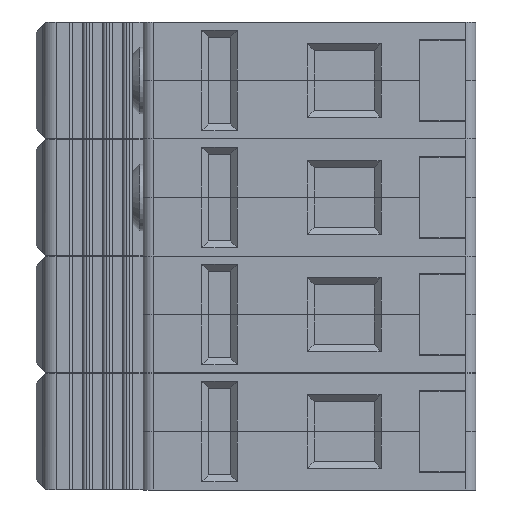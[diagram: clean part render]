
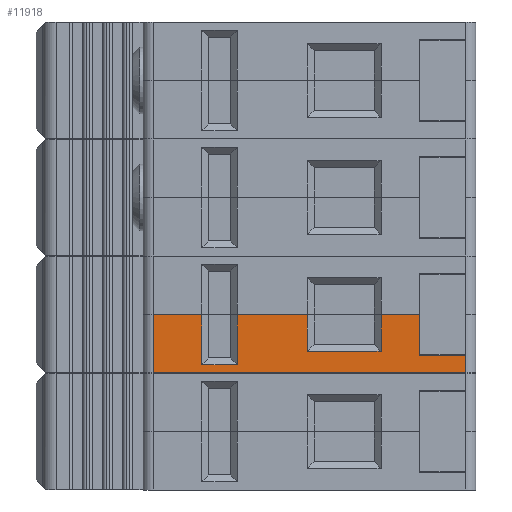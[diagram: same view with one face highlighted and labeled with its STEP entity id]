
A CAD part, left-side view. The second image highlights one B-rep face of the part: STEP entity #11918.
In plain terms, the highlighted planar face has unit normal (-1, 0, 0).
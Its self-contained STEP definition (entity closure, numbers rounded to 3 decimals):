
#831=FACE_OUTER_BOUND('',#1474,.T.);
#1474=EDGE_LOOP('',(#8820,#8821,#8822,#8823,#8824,#8825,#8826,#8827,#8828,
#8829,#8830,#8831,#8832,#8833));
#2024=LINE('',#17053,#3415);
#2030=LINE('',#17065,#3421);
#2036=LINE('',#17077,#3427);
#2288=LINE('',#17705,#3679);
#2450=LINE('',#18123,#3841);
#2452=LINE('',#18128,#3843);
#2471=LINE('',#18165,#3862);
#2474=LINE('',#18172,#3865);
#2493=LINE('',#18209,#3884);
#2496=LINE('',#18216,#3887);
#2497=LINE('',#18218,#3888);
#2498=LINE('',#18219,#3889);
#2499=LINE('',#18220,#3890);
#2500=LINE('',#18221,#3891);
#3415=VECTOR('',#13579,10.);
#3421=VECTOR('',#13585,10.);
#3427=VECTOR('',#13591,10.);
#3679=VECTOR('',#14071,10.);
#3841=VECTOR('',#14495,10.);
#3843=VECTOR('',#14501,10.);
#3862=VECTOR('',#14536,10.);
#3865=VECTOR('',#14543,10.);
#3884=VECTOR('',#14578,10.);
#3887=VECTOR('',#14585,10.);
#3888=VECTOR('',#14586,10.);
#3889=VECTOR('',#14587,10.);
#3890=VECTOR('',#14588,10.);
#3891=VECTOR('',#14589,10.);
#4804=VERTEX_POINT('',#17050);
#4805=VERTEX_POINT('',#17052);
#4810=VERTEX_POINT('',#17062);
#4811=VERTEX_POINT('',#17064);
#4816=VERTEX_POINT('',#17074);
#4817=VERTEX_POINT('',#17076);
#5072=VERTEX_POINT('',#17702);
#5073=VERTEX_POINT('',#17704);
#5193=VERTEX_POINT('',#18127);
#5203=VERTEX_POINT('',#18163);
#5205=VERTEX_POINT('',#18171);
#5215=VERTEX_POINT('',#18207);
#5217=VERTEX_POINT('',#18215);
#5218=VERTEX_POINT('',#18217);
#5989=EDGE_CURVE('',#4805,#4804,#2024,.T.);
#5995=EDGE_CURVE('',#4811,#4810,#2030,.T.);
#6001=EDGE_CURVE('',#4817,#4816,#2036,.T.);
#6312=EDGE_CURVE('',#5073,#5072,#2288,.T.);
#6521=EDGE_CURVE('',#5073,#4804,#2450,.T.);
#6523=EDGE_CURVE('',#4805,#5193,#2452,.T.);
#6542=EDGE_CURVE('',#5203,#4810,#2471,.T.);
#6545=EDGE_CURVE('',#4811,#5205,#2474,.T.);
#6564=EDGE_CURVE('',#5215,#4816,#2493,.T.);
#6567=EDGE_CURVE('',#5217,#5072,#2496,.T.);
#6568=EDGE_CURVE('',#5217,#5218,#2497,.T.);
#6569=EDGE_CURVE('',#5218,#4817,#2498,.T.);
#6570=EDGE_CURVE('',#5205,#5215,#2499,.T.);
#6571=EDGE_CURVE('',#5193,#5203,#2500,.T.);
#8820=ORIENTED_EDGE('',*,*,#5989,.T.);
#8821=ORIENTED_EDGE('',*,*,#6521,.F.);
#8822=ORIENTED_EDGE('',*,*,#6312,.T.);
#8823=ORIENTED_EDGE('',*,*,#6567,.F.);
#8824=ORIENTED_EDGE('',*,*,#6568,.T.);
#8825=ORIENTED_EDGE('',*,*,#6569,.T.);
#8826=ORIENTED_EDGE('',*,*,#6001,.T.);
#8827=ORIENTED_EDGE('',*,*,#6564,.F.);
#8828=ORIENTED_EDGE('',*,*,#6570,.F.);
#8829=ORIENTED_EDGE('',*,*,#6545,.F.);
#8830=ORIENTED_EDGE('',*,*,#5995,.T.);
#8831=ORIENTED_EDGE('',*,*,#6542,.F.);
#8832=ORIENTED_EDGE('',*,*,#6571,.F.);
#8833=ORIENTED_EDGE('',*,*,#6523,.F.);
#11420=PLANE('',#12754);
#11918=ADVANCED_FACE('',(#831),#11420,.T.);
#12754=AXIS2_PLACEMENT_3D('',#18214,#14583,#14584);
#13579=DIRECTION('',(0.,1.,0.));
#13585=DIRECTION('',(0.,1.,0.));
#13591=DIRECTION('',(0.,1.,0.));
#14071=DIRECTION('',(0.,-1.,0.));
#14495=DIRECTION('',(0.,0.,1.));
#14501=DIRECTION('',(0.,0.,-1.));
#14536=DIRECTION('',(0.,0.,1.));
#14543=DIRECTION('',(0.,0.,-1.));
#14578=DIRECTION('',(0.,0.,1.));
#14583=DIRECTION('center_axis',(-1.,0.,0.));
#14584=DIRECTION('ref_axis',(0.,-1.,0.));
#14585=DIRECTION('',(0.,0.,-1.));
#14586=DIRECTION('',(0.,1.,0.));
#14587=DIRECTION('',(0.,0.,1.));
#14588=DIRECTION('',(0.,-1.,0.));
#14589=DIRECTION('',(0.,-1.,0.));
#17050=CARTESIAN_POINT('',(-45.,12.5,8.7));
#17052=CARTESIAN_POINT('',(-45.,5.2,8.7));
#17053=CARTESIAN_POINT('',(-45.,4.197,8.7));
#17062=CARTESIAN_POINT('',(-45.,-0.1,8.7));
#17064=CARTESIAN_POINT('',(-45.,-10.6,8.7));
#17065=CARTESIAN_POINT('',(-45.,4.197,8.7));
#17074=CARTESIAN_POINT('',(-45.,-21.6,8.7));
#17076=CARTESIAN_POINT('',(-45.,-27.3,8.7));
#17077=CARTESIAN_POINT('',(-45.,4.197,8.7));
#17702=CARTESIAN_POINT('',(-45.,-34.3,0.));
#17704=CARTESIAN_POINT('',(-45.,12.5,0.));
#17705=CARTESIAN_POINT('',(-45.,14.,0.));
#18123=CARTESIAN_POINT('',(-45.,12.5,0.));
#18127=CARTESIAN_POINT('',(-45.,5.2,1.25));
#18128=CARTESIAN_POINT('',(-45.,5.2,1.125));
#18163=CARTESIAN_POINT('',(-45.,-0.1,1.25));
#18165=CARTESIAN_POINT('',(-45.,-0.1,7.625));
#18171=CARTESIAN_POINT('',(-45.,-10.6,3.25));
#18172=CARTESIAN_POINT('',(-45.,-10.6,2.125));
#18207=CARTESIAN_POINT('',(-45.,-21.6,3.25));
#18209=CARTESIAN_POINT('',(-45.,-21.6,6.625));
#18214=CARTESIAN_POINT('Origin',(-45.,14.,0.));
#18215=CARTESIAN_POINT('',(-45.,-34.3,2.64));
#18216=CARTESIAN_POINT('',(-45.,-34.3,0.));
#18217=CARTESIAN_POINT('',(-45.,-27.3,2.64));
#18218=CARTESIAN_POINT('',(-45.,-10.15,2.64));
#18219=CARTESIAN_POINT('',(-45.,-27.3,1.32));
#18220=CARTESIAN_POINT('',(-45.,-3.3,3.25));
#18221=CARTESIAN_POINT('',(-45.,7.45,1.25));
